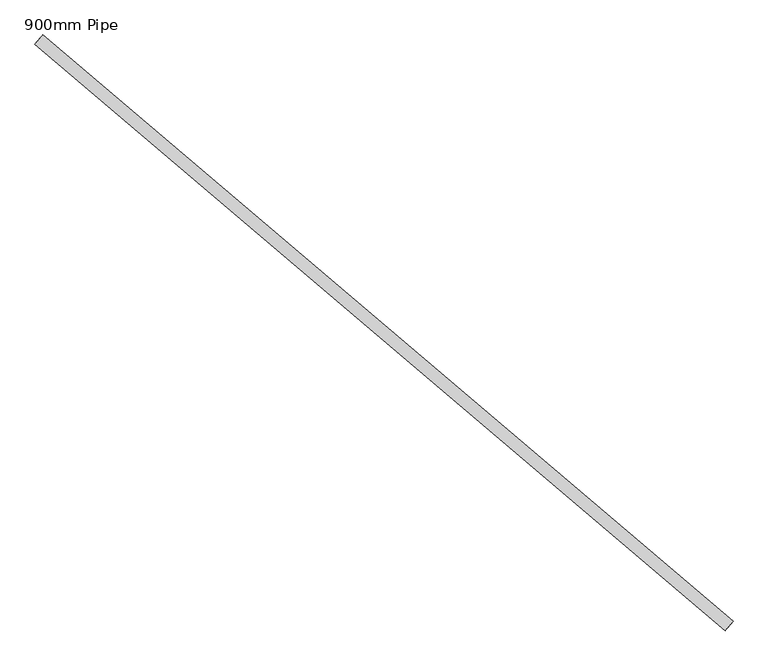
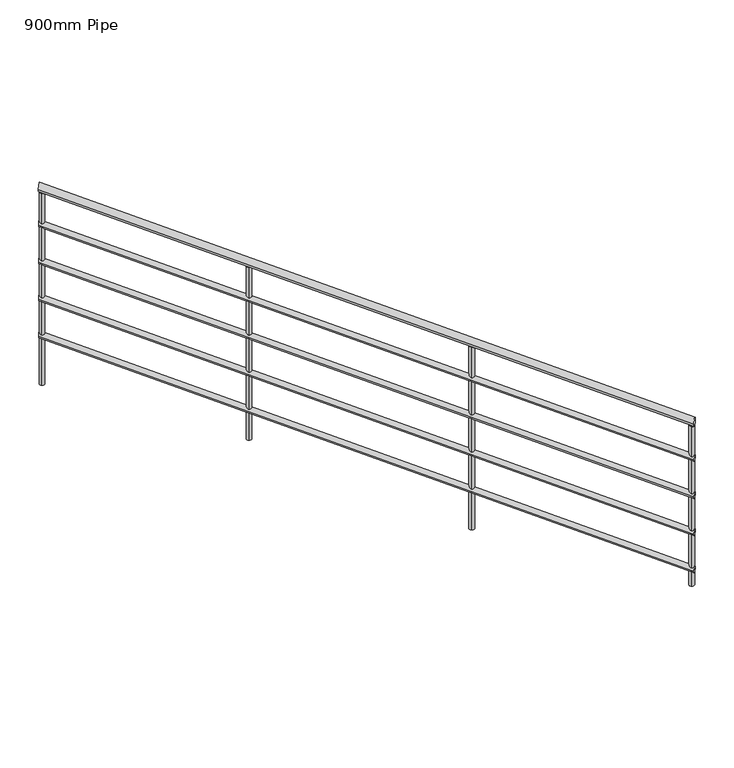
"""IFC4 building model written with IfcOpenShell, lengths in millimetres: railing geometry, 900mm Pipe."""

from ifc_helpers import new_model, si_unit, frame, origin, place, context, project, spatial, circle_curve, ellipse_curve, source, transform, mapped, element, save
from ifc_brep_helpers import plane_surface, cylinder_surface, advanced_brep


def railing_900mm_pipe_01e81c91(model_context):
    return source(origin(), model_context, "Body", "AdvancedBrep", [
        advanced_brep(
        [(875716.0612407, 4710.8416251, 5058.386247), (875690.1669617, 4680.3541472, 5058.386247), (873473.6661844, 6615.4007148, 5954.8568352), (873447.7719054, 6584.9132369, 5954.8568352)],
        [
            (0, 1, ellipse_curve(frame((875703.1141012, 4695.5978862, 5058.386247), z_axis=(0.7621869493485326, -0.6473569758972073, 0.0), x_axis=(0.0, 0.0, -1.0)), 20.9078706, 20.0)),
            (1, 0, ellipse_curve(frame((875703.1141012, 4695.5978862, 5058.386247), z_axis=(0.7621869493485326, -0.6473569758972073, 0.0), x_axis=(0.0, 0.0, -1.0)), 20.9078706, 20.0)),
            (2, 3, ellipse_curve(frame((873460.7190449, 6600.1569759, 5954.8568352), z_axis=(-0.7621869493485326, 0.6473569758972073, 0.0), x_axis=(0.0, 0.0, -1.0)), 20.9078706, 20.0)),
            (3, 2, ellipse_curve(frame((873460.7190449, 6600.1569759, 5954.8568352), z_axis=(-0.7621869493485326, 0.6473569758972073, 0.0), x_axis=(0.0, 0.0, -1.0)), 20.9078706, 20.0)),
            (1, 3),
            (2, 0),
        ],
        [
            plane_surface(frame((875703.1141012, 4695.5978862, 5079.2941176), z_axis=(0.7621869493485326, -0.6473569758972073, 0.0), x_axis=(0.6473569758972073, 0.7621869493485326, 0.0))),
            plane_surface(frame((873460.7190449, 6600.1569759, 5975.7647059), z_axis=(-0.7621869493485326, 0.6473569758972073, 0.0), x_axis=(0.6473569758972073, 0.7621869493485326, 0.0))),
            cylinder_surface(frame((875698.6708883, 4699.3716911, 5060.1625663), z_axis=(0.7290909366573, -0.6192471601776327, -0.29147789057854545), x_axis=(-0.6473569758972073, -0.7621869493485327, 0.0)), 20.0),
        ],
        [
            (0, [[1, 2]]),
            (1, [[3, 4]]),
            (2, [[-2, 5, -3, 6]]),
            (2, [[-1, -6, -4, -5]]),
        ],
    ),
        advanced_brep(
        [(875712.8244558, 4707.0306904, 4863.6132147), (875693.4037466, 4684.1650819, 4863.6132147), (873470.4293995, 6611.5897801, 5760.0838029), (873451.0086902, 6588.7241716, 5760.0838029)],
        [
            (0, 1, ellipse_curve(frame((875703.1141012, 4695.5978862, 4863.6132147), z_axis=(0.7621869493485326, -0.6473569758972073, 0.0), x_axis=(0.0, 0.0, -1.0)), 15.680903, 15.0)),
            (1, 0, ellipse_curve(frame((875703.1141012, 4695.5978862, 4863.6132147), z_axis=(0.7621869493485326, -0.6473569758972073, 0.0), x_axis=(0.0, 0.0, -1.0)), 15.680903, 15.0)),
            (2, 3, ellipse_curve(frame((873460.7190449, 6600.1569759, 5760.0838029), z_axis=(-0.7621869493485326, 0.6473569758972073, 0.0), x_axis=(0.0, 0.0, -1.0)), 15.680903, 15.0)),
            (3, 2, ellipse_curve(frame((873460.7190449, 6600.1569759, 5760.0838029), z_axis=(-0.7621869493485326, 0.6473569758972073, 0.0), x_axis=(0.0, 0.0, -1.0)), 15.680903, 15.0)),
            (0, 2),
            (3, 1),
        ],
        [
            plane_surface(frame((875703.1141012, 4695.5978862, 4879.2941176), z_axis=(0.7621869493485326, -0.6473569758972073, 0.0), x_axis=(0.6473569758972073, 0.7621869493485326, 0.0))),
            plane_surface(frame((873460.7190449, 6600.1569759, 5775.7647059), z_axis=(-0.7621869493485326, 0.6473569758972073, 0.0), x_axis=(0.6473569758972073, 0.7621869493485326, 0.0))),
            cylinder_surface(frame((875699.7816915, 4698.4282398, 4864.9454542), z_axis=(0.7290909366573, -0.6192471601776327, -0.29147789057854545), x_axis=(-0.6473569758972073, -0.7621869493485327, 0.0)), 15.0),
        ],
        [
            (0, [[1, 2]]),
            (1, [[3, 4]]),
            (2, [[-1, 5, -4, 6]]),
            (2, [[-2, -6, -3, -5]]),
        ],
    ),
        advanced_brep(
        [(875712.8244558, 4707.0306904, 4663.6132147), (875693.4037466, 4684.1650819, 4663.6132147), (873470.4293995, 6611.5897801, 5560.0838029), (873451.0086902, 6588.7241716, 5560.0838029)],
        [
            (0, 1, ellipse_curve(frame((875703.1141012, 4695.5978862, 4663.6132147), z_axis=(0.7621869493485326, -0.6473569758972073, 0.0), x_axis=(0.0, 0.0, -1.0)), 15.680903, 15.0)),
            (1, 0, ellipse_curve(frame((875703.1141012, 4695.5978862, 4663.6132147), z_axis=(0.7621869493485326, -0.6473569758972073, 0.0), x_axis=(0.0, 0.0, -1.0)), 15.680903, 15.0)),
            (2, 3, ellipse_curve(frame((873460.7190449, 6600.1569759, 5560.0838029), z_axis=(-0.7621869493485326, 0.6473569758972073, 0.0), x_axis=(0.0, 0.0, -1.0)), 15.680903, 15.0)),
            (3, 2, ellipse_curve(frame((873460.7190449, 6600.1569759, 5560.0838029), z_axis=(-0.7621869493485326, 0.6473569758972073, 0.0), x_axis=(0.0, 0.0, -1.0)), 15.680903, 15.0)),
            (0, 2),
            (3, 1),
        ],
        [
            plane_surface(frame((875703.1141012, 4695.5978862, 4679.2941176), z_axis=(0.7621869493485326, -0.6473569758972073, 0.0), x_axis=(0.6473569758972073, 0.7621869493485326, 0.0))),
            plane_surface(frame((873460.7190449, 6600.1569759, 5575.7647059), z_axis=(-0.7621869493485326, 0.6473569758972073, 0.0), x_axis=(0.6473569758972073, 0.7621869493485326, 0.0))),
            cylinder_surface(frame((875699.7816915, 4698.4282398, 4664.9454542), z_axis=(0.7290909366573, -0.6192471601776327, -0.29147789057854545), x_axis=(-0.6473569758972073, -0.7621869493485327, 0.0)), 15.0),
        ],
        [
            (0, [[1, 2]]),
            (1, [[3, 4]]),
            (2, [[-1, 5, -4, 6]]),
            (2, [[-2, -6, -3, -5]]),
        ],
    ),
        advanced_brep(
        [(875712.8244558, 4707.0306904, 4463.6132147), (875693.4037466, 4684.1650819, 4463.6132147), (873470.4293995, 6611.5897801, 5360.0838029), (873451.0086902, 6588.7241716, 5360.0838029)],
        [
            (0, 1, ellipse_curve(frame((875703.1141012, 4695.5978862, 4463.6132147), z_axis=(0.7621869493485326, -0.6473569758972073, 0.0), x_axis=(0.0, 0.0, -1.0)), 15.680903, 15.0)),
            (1, 0, ellipse_curve(frame((875703.1141012, 4695.5978862, 4463.6132147), z_axis=(0.7621869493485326, -0.6473569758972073, 0.0), x_axis=(0.0, 0.0, -1.0)), 15.680903, 15.0)),
            (2, 3, ellipse_curve(frame((873460.7190449, 6600.1569759, 5360.0838029), z_axis=(-0.7621869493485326, 0.6473569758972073, 0.0), x_axis=(0.0, 0.0, -1.0)), 15.680903, 15.0)),
            (3, 2, ellipse_curve(frame((873460.7190449, 6600.1569759, 5360.0838029), z_axis=(-0.7621869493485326, 0.6473569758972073, 0.0), x_axis=(0.0, 0.0, -1.0)), 15.680903, 15.0)),
            (0, 2),
            (3, 1),
        ],
        [
            plane_surface(frame((875703.1141012, 4695.5978862, 4479.2941176), z_axis=(0.7621869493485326, -0.6473569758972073, 0.0), x_axis=(0.6473569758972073, 0.7621869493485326, 0.0))),
            plane_surface(frame((873460.7190449, 6600.1569759, 5375.7647059), z_axis=(-0.7621869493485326, 0.6473569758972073, 0.0), x_axis=(0.6473569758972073, 0.7621869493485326, 0.0))),
            cylinder_surface(frame((875699.7816915, 4698.4282398, 4464.9454542), z_axis=(0.7290909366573, -0.6192471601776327, -0.29147789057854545), x_axis=(-0.6473569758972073, -0.7621869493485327, 0.0)), 15.0),
        ],
        [
            (0, [[1, 2]]),
            (1, [[3, 4]]),
            (2, [[-1, 5, -4, 6]]),
            (2, [[-2, -6, -3, -5]]),
        ],
    ),
        advanced_brep(
        [(875712.8244558, 4707.0306904, 4263.6132147), (875693.4037466, 4684.1650819, 4263.6132147), (873470.4293995, 6611.5897801, 5160.0838029), (873451.0086902, 6588.7241716, 5160.0838029)],
        [
            (0, 1, ellipse_curve(frame((875703.1141012, 4695.5978862, 4263.6132147), z_axis=(0.7621869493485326, -0.6473569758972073, 0.0), x_axis=(0.0, 0.0, -1.0)), 15.680903, 15.0)),
            (1, 0, ellipse_curve(frame((875703.1141012, 4695.5978862, 4263.6132147), z_axis=(0.7621869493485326, -0.6473569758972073, 0.0), x_axis=(0.0, 0.0, -1.0)), 15.680903, 15.0)),
            (2, 3, ellipse_curve(frame((873460.7190449, 6600.1569759, 5160.0838029), z_axis=(-0.7621869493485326, 0.6473569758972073, 0.0), x_axis=(0.0, 0.0, -1.0)), 15.680903, 15.0)),
            (3, 2, ellipse_curve(frame((873460.7190449, 6600.1569759, 5160.0838029), z_axis=(-0.7621869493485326, 0.6473569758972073, 0.0), x_axis=(0.0, 0.0, -1.0)), 15.680903, 15.0)),
            (0, 2),
            (3, 1),
        ],
        [
            plane_surface(frame((875703.1141012, 4695.5978862, 4279.2941176), z_axis=(0.7621869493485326, -0.6473569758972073, 0.0), x_axis=(0.6473569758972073, 0.7621869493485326, 0.0))),
            plane_surface(frame((873460.7190449, 6600.1569759, 5175.7647059), z_axis=(-0.7621869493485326, 0.6473569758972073, 0.0), x_axis=(0.6473569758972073, 0.7621869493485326, 0.0))),
            cylinder_surface(frame((875699.7816915, 4698.4282398, 4264.9454542), z_axis=(0.7290909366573, -0.6192471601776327, -0.29147789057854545), x_axis=(-0.6473569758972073, -0.7621869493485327, 0.0)), 15.0),
        ],
        [
            (0, [[1, 2]]),
            (1, [[3, 4]]),
            (2, [[-1, 5, -4, 6]]),
            (2, [[-2, -6, -3, -5]]),
        ],
    ),
        advanced_brep(
        [(874170.6482403, 5980.7845011, 5646.8965794), (874186.8321647, 5999.8391748, 5646.8965794), (874186.8321647, 5999.8391748, 4717.1764706), (874170.6482403, 5980.7845011, 4717.1764706)],
        [
            (0, 1, ellipse_curve(frame((874178.7402025, 5990.3118379, 5646.8965794), z_axis=(-0.2221606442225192, 0.18869024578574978, -0.9565775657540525), x_axis=(-0.7290909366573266, 0.6192471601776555, 0.2914778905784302)), 13.0674191, 12.5)),
            (1, 2),
            (2, 3, circle_curve(frame((874178.7402025, 5990.3118379, 4717.1764706), z_axis=(0.0, 0.0, 1.0), x_axis=(0.6473569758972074, 0.7621869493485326, 0.0)), 12.5)),
            (3, 0),
            (3, 2, circle_curve(frame((874178.7402025, 5990.3118379, 4717.1764706), z_axis=(0.0, 0.0, 1.0), x_axis=(0.6473569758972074, 0.7621869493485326, 0.0)), 12.5)),
            (1, 0, ellipse_curve(frame((874178.7402025, 5990.3118379, 5646.8965794), z_axis=(-0.2221606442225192, 0.18869024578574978, -0.9565775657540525), x_axis=(-0.7290909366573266, 0.6192471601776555, 0.2914778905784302)), 13.0674191, 12.5)),
        ],
        [
            cylinder_surface(frame((874178.7402025, 5990.3118379, 4617.1764706), z_axis=(0.0, 0.0, 1.0), x_axis=(0.6473569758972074, 0.7621869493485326, 0.0)), 12.5),
            plane_surface(frame((874175.8694532, 6025.5504361, 5654.5143069), z_axis=(0.2221606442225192, -0.18869024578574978, 0.9565775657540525), x_axis=(-0.6473569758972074, -0.7621869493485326, 0.0))),
            plane_surface(frame((874213.9788006, 5993.1825873, 4717.1764706), z_axis=(0.0, 0.0, -1.0), x_axis=(-0.6473569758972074, -0.7621869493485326, 0.0))),
        ],
        [
            (0, [[1, 2, 3, 4]]),
            (0, [[5, -2, 6, -4]]),
            (1, [[-6, -1]]),
            (2, [[-5, -3]]),
        ],
    ),
        advanced_brep(
        [(874932.8351897, 5333.4275252, 5342.1874779), (874949.0191141, 5352.4821989, 5342.1874779), (874949.0191141, 5352.4821989, 4358.5882353), (874932.8351897, 5333.4275252, 4358.5882353)],
        [
            (0, 1, ellipse_curve(frame((874940.9271519, 5342.954862, 5342.1874779), z_axis=(-0.22216064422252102, 0.18869024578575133, -0.9565775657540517), x_axis=(-0.7290909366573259, 0.6192471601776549, 0.29147789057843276)), 13.0674191, 12.5)),
            (1, 2),
            (2, 3, circle_curve(frame((874940.9271519, 5342.954862, 4358.5882353), z_axis=(0.0, 0.0, 1.0), x_axis=(0.6473569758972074, 0.7621869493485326, 0.0)), 12.5)),
            (3, 0),
            (3, 2, circle_curve(frame((874940.9271519, 5342.954862, 4358.5882353), z_axis=(0.0, 0.0, 1.0), x_axis=(0.6473569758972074, 0.7621869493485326, 0.0)), 12.5)),
            (1, 0, ellipse_curve(frame((874940.9271519, 5342.954862, 5342.1874779), z_axis=(-0.22216064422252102, 0.18869024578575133, -0.9565775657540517), x_axis=(-0.7290909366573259, 0.6192471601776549, 0.29147789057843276)), 13.0674191, 12.5)),
        ],
        [
            cylinder_surface(frame((874940.9271519, 5342.954862, 4258.5882353), z_axis=(0.0, 0.0, 1.0), x_axis=(0.6473569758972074, 0.7621869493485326, 0.0)), 12.5),
            plane_surface(frame((874938.0564025, 5378.1934602, 5349.8052054), z_axis=(0.22216064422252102, -0.18869024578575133, 0.9565775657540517), x_axis=(-0.6473569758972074, -0.7621869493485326, 0.0))),
            plane_surface(frame((874976.16575, 5345.8256114, 4358.5882353), z_axis=(0.0, 0.0, -1.0), x_axis=(-0.6473569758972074, -0.7621869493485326, 0.0))),
        ],
        [
            (0, [[1, 2, 3, 4]]),
            (0, [[5, -2, 6, -4]]),
            (1, [[-6, -1]]),
            (2, [[-5, -3]]),
        ],
    ),
        advanced_brep(
        [(873462.1544195, 6582.5376768, 5930.1401008), (873478.3383439, 6601.5923505, 5930.1401008), (873478.3383439, 6601.5923505, 4896.4705882), (873462.1544195, 6582.5376768, 4896.4705882)],
        [
            (0, 1, ellipse_curve(frame((873470.2463817, 6592.0650137, 5930.1401008), z_axis=(-0.2221606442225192, 0.18869024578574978, -0.9565775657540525), x_axis=(-0.7290909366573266, 0.6192471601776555, 0.2914778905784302)), 13.0674191, 12.5)),
            (1, 2),
            (2, 3, circle_curve(frame((873470.2463817, 6592.0650137, 4896.4705882), z_axis=(0.0, 0.0, 1.0), x_axis=(0.6473569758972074, 0.7621869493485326, 0.0)), 12.5)),
            (3, 0),
            (3, 2, circle_curve(frame((873470.2463817, 6592.0650137, 4896.4705882), z_axis=(0.0, 0.0, 1.0), x_axis=(0.6473569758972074, 0.7621869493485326, 0.0)), 12.5)),
            (1, 0, ellipse_curve(frame((873470.2463817, 6592.0650137, 5930.1401008), z_axis=(-0.2221606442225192, 0.18869024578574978, -0.9565775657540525), x_axis=(-0.7290909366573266, 0.6192471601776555, 0.2914778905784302)), 13.0674191, 12.5)),
        ],
        [
            cylinder_surface(frame((873470.2463817, 6592.0650137, 4796.4705882), z_axis=(0.0, 0.0, 1.0), x_axis=(0.6473569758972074, 0.7621869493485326, 0.0)), 12.5),
            plane_surface(frame((873467.3756324, 6627.3036118, 5937.7578284), z_axis=(0.2221606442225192, -0.18869024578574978, 0.9565775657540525), x_axis=(-0.6473569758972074, -0.7621869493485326, 0.0))),
            plane_surface(frame((873505.4849799, 6594.935763, 4896.4705882), z_axis=(0.0, 0.0, -1.0), x_axis=(-0.6473569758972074, -0.7621869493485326, 0.0))),
        ],
        [
            (0, [[1, 2, 3, 4]]),
            (0, [[5, -2, 6, -4]]),
            (1, [[-6, -1]]),
            (2, [[-5, -3]]),
        ],
    ),
        advanced_brep(
        [(875685.4948021, 4694.1625115, 5041.2872401), (875701.6787265, 4713.2171852, 5041.2872401), (875701.6787265, 4713.2171852, 4179.2941176), (875685.4948021, 4694.1625115, 4179.2941176)],
        [
            (0, 1, ellipse_curve(frame((875693.5867643, 4703.6898484, 5041.2872401), z_axis=(-0.22216064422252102, 0.18869024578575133, -0.9565775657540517), x_axis=(-0.7290909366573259, 0.6192471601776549, 0.29147789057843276)), 13.0674191, 12.5)),
            (1, 2),
            (2, 3, circle_curve(frame((875693.5867643, 4703.6898484, 4179.2941176), z_axis=(0.0, 0.0, 1.0), x_axis=(0.6473569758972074, 0.7621869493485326, 0.0)), 12.5)),
            (3, 0),
            (3, 2, circle_curve(frame((875693.5867643, 4703.6898484, 4179.2941176), z_axis=(0.0, 0.0, 1.0), x_axis=(0.6473569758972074, 0.7621869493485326, 0.0)), 12.5)),
            (1, 0, ellipse_curve(frame((875693.5867643, 4703.6898484, 5041.2872401), z_axis=(-0.22216064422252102, 0.18869024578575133, -0.9565775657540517), x_axis=(-0.7290909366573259, 0.6192471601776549, 0.29147789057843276)), 13.0674191, 12.5)),
        ],
        [
            cylinder_surface(frame((875693.5867643, 4703.6898484, 4079.2941176), z_axis=(0.0, 0.0, 1.0), x_axis=(0.6473569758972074, 0.7621869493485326, 0.0)), 12.5),
            plane_surface(frame((875690.716015, 4738.9284465, 5048.9049677), z_axis=(0.22216064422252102, -0.18869024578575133, 0.9565775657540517), x_axis=(-0.6473569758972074, -0.7621869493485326, 0.0))),
            plane_surface(frame((875728.8253625, 4706.5605977, 4179.2941176), z_axis=(0.0, 0.0, -1.0), x_axis=(-0.6473569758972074, -0.7621869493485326, 0.0))),
        ],
        [
            (0, [[1, 2, 3, 4]]),
            (0, [[5, -2, 6, -4]]),
            (1, [[-6, -1]]),
            (2, [[-5, -3]]),
        ],
    ),
    ])


if __name__ == "__main__":
    model = new_model("IFC4")
    model_context = context("Model", 3, world=origin())
    ifc_project = project(units=[si_unit("LENGTHUNIT", "METRE", prefix="MILLI")], contexts=[model_context])
    site = spatial("IfcSite", under=ifc_project)
    building = spatial("IfcBuilding", under=site)
    placement = place(None, origin())
    railing_900mm_pipe_shape = railing_900mm_pipe_01e81c91(model_context)
    element("IfcRailing", 1, ObjectType="900mm Pipe", at=placement, inside=building, context=model_context, shape_type="MappedRepresentation", body=[
        mapped(railing_900mm_pipe_shape, transform((0.0, 0.0, 0.0), x_axis=(1.0, 0.0, 0.0), y_axis=(0.0, 1.0, 0.0), z_axis=(0.0, 0.0, 1.0))),
    ])
    save(model, "model.ifc")
